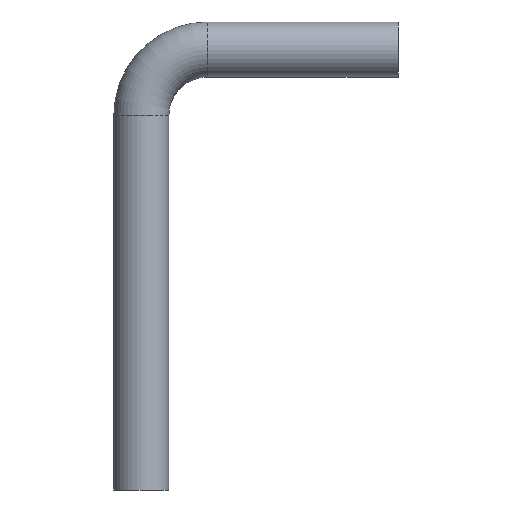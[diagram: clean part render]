
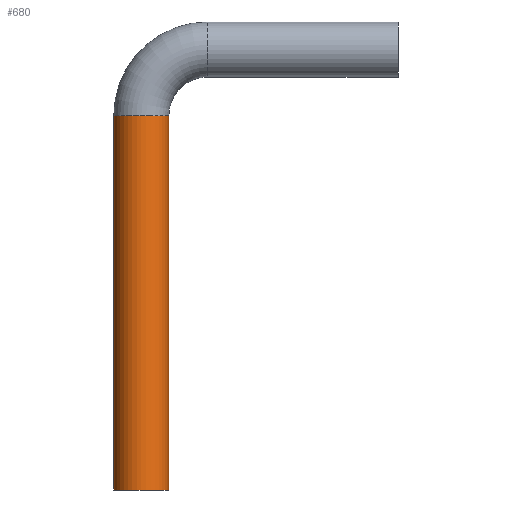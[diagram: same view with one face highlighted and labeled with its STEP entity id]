
A CAD part, front view. The second image highlights one B-rep face of the part: STEP entity #680.
In plain terms, the highlighted cylindrical face has radius 7.5 mm (diameter 15 mm), a partial arc.
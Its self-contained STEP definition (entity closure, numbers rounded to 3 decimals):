
#210=CARTESIAN_POINT('',(46.433,49.631,0.));
#220=DIRECTION('',(0.,0.,1.));
#230=DIRECTION('',(1.,0.,0.));
#240=AXIS2_PLACEMENT_3D('',#210,#220,#230);
#250=CIRCLE('',#240,7.5);
#260=CARTESIAN_POINT('',(53.933,49.631,0.));
#270=VERTEX_POINT('',#260);
#280=CARTESIAN_POINT('',(38.933,49.631,0.));
#290=VERTEX_POINT('',#280);
#320=EDGE_CURVE('',#290,#270,#250,.T.);
#370=CARTESIAN_POINT('',(46.433,49.631,0.));
#380=DIRECTION('',(0.,0.,1.));
#390=DIRECTION('',(1.,0.,0.));
#400=AXIS2_PLACEMENT_3D('',#370,#380,#390);
#410=CYLINDRICAL_SURFACE('',#400,7.5);
#420=CARTESIAN_POINT('',(53.933,49.631,0.));
#430=DIRECTION('',(0.,0.,1.));
#440=VECTOR('',#430,1.);
#450=LINE('',#420,#440);
#460=CARTESIAN_POINT('',(53.933,49.631,102.));
#470=VERTEX_POINT('',#460);
#480=EDGE_CURVE('',#270,#470,#450,.T.);
#490=ORIENTED_EDGE('',*,*,#480,.T.);
#500=ORIENTED_EDGE('',*,*,#320,.T.);
#510=CARTESIAN_POINT('',(38.933,49.631,0.));
#520=DIRECTION('',(0.,0.,1.));
#530=VECTOR('',#520,1.);
#540=LINE('',#510,#530);
#550=CARTESIAN_POINT('',(38.933,49.631,102.));
#560=VERTEX_POINT('',#550);
#570=EDGE_CURVE('',#290,#560,#540,.T.);
#580=ORIENTED_EDGE('',*,*,#570,.F.);
#590=CARTESIAN_POINT('',(46.433,49.631,102.));
#600=DIRECTION('',(0.,0.,1.));
#610=DIRECTION('',(1.,0.,0.));
#620=AXIS2_PLACEMENT_3D('',#590,#600,#610);
#630=CIRCLE('',#620,7.5);
#640=EDGE_CURVE('',#560,#470,#630,.T.);
#650=ORIENTED_EDGE('',*,*,#640,.F.);
#660=EDGE_LOOP('',(#650,#580,#500,#490));
#670=FACE_OUTER_BOUND('',#660,.T.);
#680=ADVANCED_FACE('',(#670),#410,.T.);
